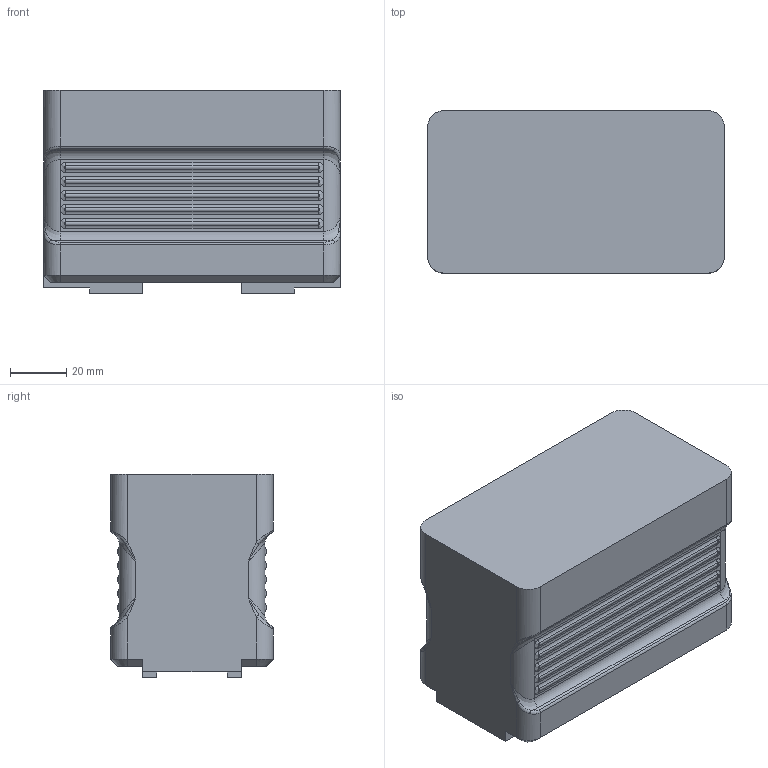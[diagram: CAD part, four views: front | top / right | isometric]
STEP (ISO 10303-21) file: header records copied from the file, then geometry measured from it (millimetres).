
FILE_DESCRIPTION((''),'2;1');
FILE_NAME('PRT0012-0','2019-10-29T17:03:51',('biubiu'),(''),'CREO PARAMETRIC BY PTC INC, 2017260','CREO PARAMETRIC BY PTC INC, 2017260','');
FILE_SCHEMA(('CONFIG_CONTROL_DESIGN'));
Length unit declared in the file: millimetre
Products named in the file (1): PRT0012-0
Bounding box: 106 x 58 x 72.5 mm (x, y, z)
Volume: 402155.1 mm3; surface area: 35606.9 mm2
Topology: 1 solids, 1 shells, 178 faces, 406 edges, 240 vertices
Faces by surface type: plane 52, bspline 52, cylinder 50, sphere 20, cone 4
Entity records: 7316 total; most frequent: CARTESIAN_POINT 3520, ORIENTED_EDGE 812, DIRECTION 738, EDGE_CURVE 406, AXIS2_PLACEMENT_3D 270, VERTEX_POINT 240, VECTOR 198, LINE 198
